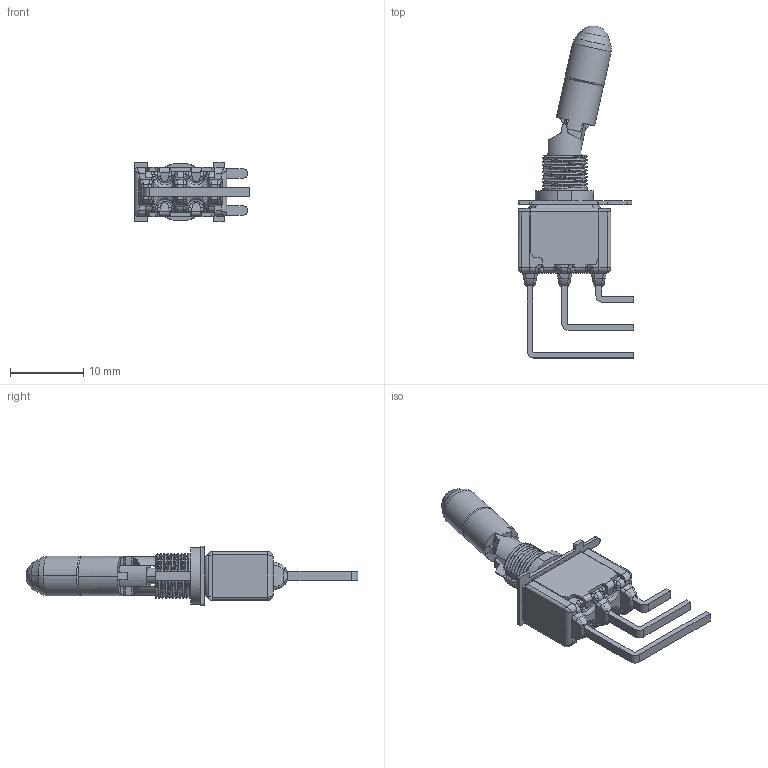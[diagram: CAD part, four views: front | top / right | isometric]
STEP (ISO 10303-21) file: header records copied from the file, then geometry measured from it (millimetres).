
FILE_DESCRIPTION((''),'2;1');
FILE_NAME('710XK2AV2_SW0001_PRT','2011-10-21T',('jtrepler'),(''),'PRO/ENGINEER BY PARAMETRIC TECHNOLOGY CORPORATION, 2011080','PRO/ENGINEER BY PARAMETRIC TECHNOLOGY CORPORATION, 2011080','');
FILE_SCHEMA(('AUTOMOTIVE_DESIGN_CC2 { 1 2 10303 214 -1 1 5 2 }'));
Length unit declared in the file: inch
Products named in the file (1): 710XK2AV2_SW0001_PRT
Bounding box: 15.88 x 45.46 x 8.13 mm (x, y, z)
Volume: 943.1 mm3; surface area: 2680 mm2
Topology: 2 solids, 2 shells, 703 faces, 1834 edges, 1132 vertices
Faces by surface type: plane 360, cylinder 185, bspline 114, torus 22, cone 18, sphere 4
Entity records: 33002 total; most frequent: CARTESIAN_POINT 16723, ORIENTED_EDGE 3656, DIRECTION 2963, EDGE_CURVE 1828, VERTEX_POINT 1132, VECTOR 1087, LINE 1087, AXIS2_PLACEMENT_3D 938
